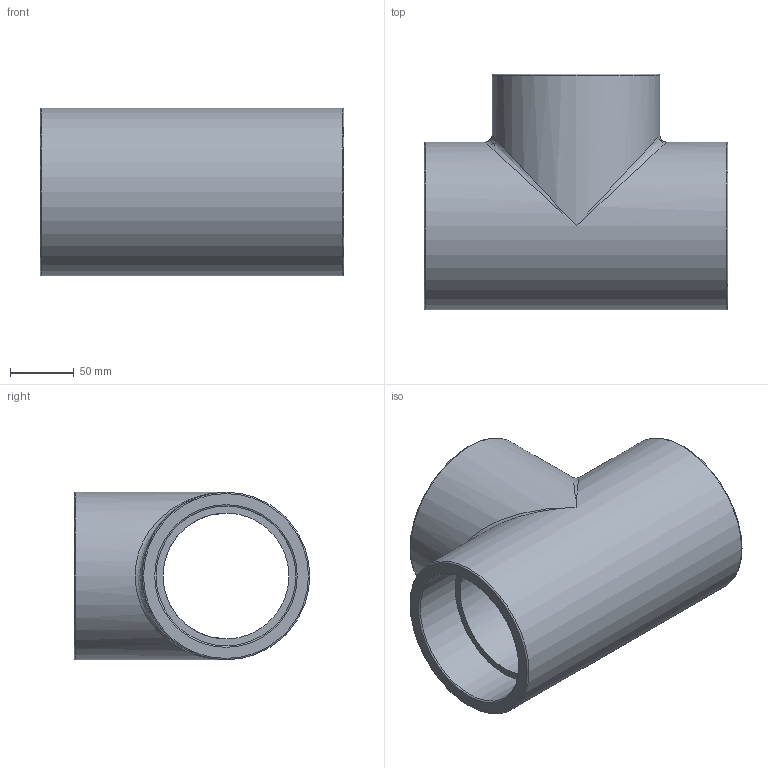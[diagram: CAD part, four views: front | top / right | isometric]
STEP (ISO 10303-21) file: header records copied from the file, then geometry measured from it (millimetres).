
FILE_DESCRIPTION(/* description */ ('PLASSON THREADED TEE PVC 4"'),/* implementation_level */ '2;1');
FILE_NAME(/* name */ 'C:\Dropbox\KIMPROJECTS-Inventor\99-16-3568-Processing\PVC Catalog 2017\050401\050401040.ipt.stp',/* time_stamp */ '2017-12-07T15:55:06+02:00',/* author */ ('KIM'),/* organization */ (''),/* preprocessor_version */ 'ST-DEVELOPER v15.6',/* originating_system */ 'Autodesk Inventor 2015',/* authorisation */ '');
FILE_SCHEMA (('AUTOMOTIVE_DESIGN { 1 0 10303 214 3 1 1 }'));
Length unit declared in the file: millimetre
Products named in the file (1): 050401040
Bounding box: 239 x 185.5 x 132 mm (x, y, z)
Volume: 1483779.4 mm3; surface area: 226555.1 mm2
Topology: 1 solids, 1 shells, 20 faces, 46 edges, 26 vertices
Faces by surface type: cylinder 7, plane 6, torus 5, bspline 2
Full cylindrical faces by diameter (mm): 99.065 x2, 110.072 x3, 132 x2
Entity records: 618 total; most frequent: CARTESIAN_POINT 231, DIRECTION 84, ORIENTED_EDGE 46, AXIS2_PLACEMENT_3D 42, EDGE_LOOP 40, EDGE_CURVE 23, VERTEX_POINT 21, FACE_BOUND 20
